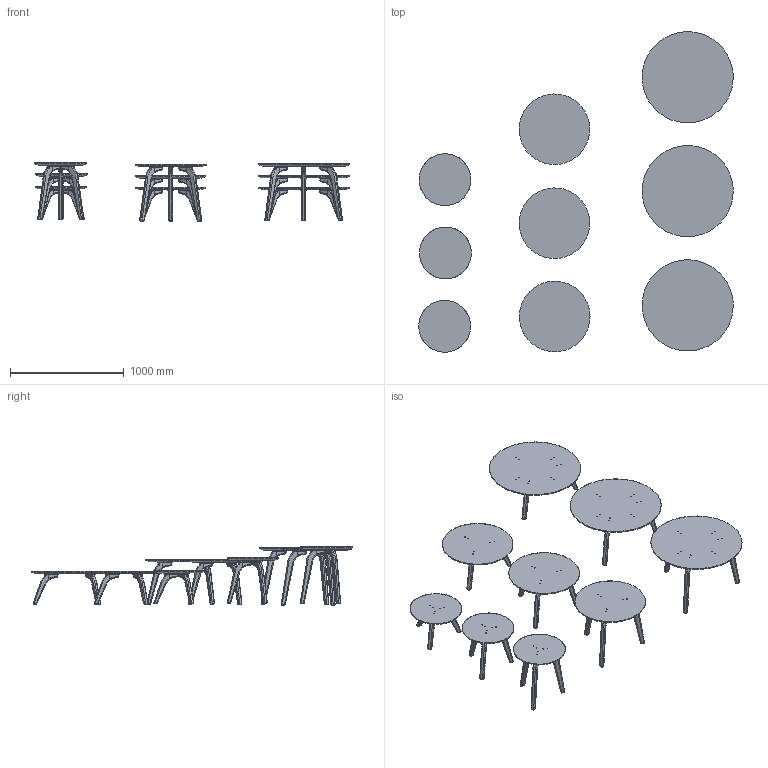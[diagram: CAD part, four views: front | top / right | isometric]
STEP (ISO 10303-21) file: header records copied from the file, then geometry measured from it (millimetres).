
FILE_DESCRIPTION(/* description */ (''),/* implementation_level */ '2;1');
FILE_NAME(/* name */ 'Proces Round Coffee tables all STEP',/* time_stamp */ '2023-02-23T15:04:03+01:00',/* author */ (''),/* organization */ (''),/* preprocessor_version */ 'ST-DEVELOPER v16.5',/* originating_system */ '',/* authorisation */ '');
FILE_SCHEMA (('AUTOMOTIVE_DESIGN'));
Products named in the file (1): Document
Bounding box: 2760.51 x 2813.12 x 512.44 mm (x, y, z)
Volume: 70938514.2 mm3; surface area: 13779560.1 mm2
Topology: 45 solids, 45 shells, 2681 faces, 6733 edges, 4303 vertices
Faces by surface type: bspline 1732, plane 949
Entity records: 89052 total; most frequent: CARTESIAN_POINT 48748, ORIENTED_EDGE 13466, EDGE_CURVE 6733, VERTEX_POINT 4303, B_SPLINE_CURVE_WITH_KNOTS 3876, EDGE_LOOP 2964, ADVANCED_FACE 2681, FACE_OUTER_BOUND 2681
